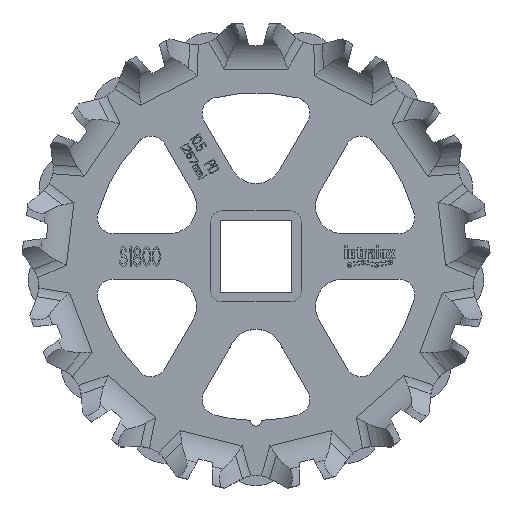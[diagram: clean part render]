
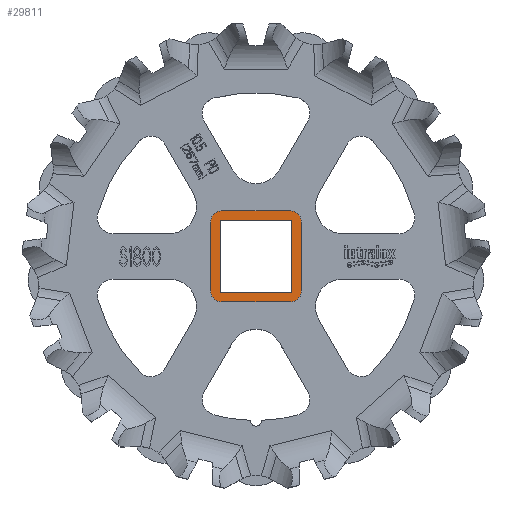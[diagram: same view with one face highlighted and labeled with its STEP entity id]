
A CAD part, top view. The second image highlights one B-rep face of the part: STEP entity #29811.
In plain terms, the highlighted planar face has unit normal (0, 0, 1).
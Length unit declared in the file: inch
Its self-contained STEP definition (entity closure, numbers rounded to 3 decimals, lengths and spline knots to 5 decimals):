
#10348=CARTESIAN_POINT('',(-0.75,0.75,0.75));
#10349=DIRECTION('',(0.,0.,1.));
#10350=DIRECTION('',(0.,1.,0.));
#10351=AXIS2_PLACEMENT_3D('',#10348,#10349,#10350);
#10353=DIRECTION('',(-1.,0.,0.));
#10354=VECTOR('',#10353,1.5);
#10355=CARTESIAN_POINT('',(0.75,1.,0.75));
#10356=LINE('',#10355,#10354);
#10357=CARTESIAN_POINT('',(0.75,0.75,0.75));
#10358=DIRECTION('',(0.,0.,1.));
#10359=DIRECTION('',(1.,0.,0.));
#10360=AXIS2_PLACEMENT_3D('',#10357,#10358,#10359);
#10362=DIRECTION('',(0.,1.,0.));
#10363=VECTOR('',#10362,1.5);
#10364=CARTESIAN_POINT('',(1.,-0.75,0.75));
#10365=LINE('',#10364,#10363);
#10366=CARTESIAN_POINT('',(0.75,-0.75,0.75));
#10367=DIRECTION('',(0.,0.,1.));
#10368=DIRECTION('',(0.,-1.,0.));
#10369=AXIS2_PLACEMENT_3D('',#10366,#10367,#10368);
#10371=DIRECTION('',(1.,0.,0.));
#10372=VECTOR('',#10371,1.5);
#10373=CARTESIAN_POINT('',(-0.75,-1.,0.75));
#10374=LINE('',#10373,#10372);
#10375=CARTESIAN_POINT('',(-0.75,-0.75,0.75));
#10376=DIRECTION('',(0.,0.,1.));
#10377=DIRECTION('',(-1.,0.,0.));
#10378=AXIS2_PLACEMENT_3D('',#10375,#10376,#10377);
#10380=DIRECTION('',(0.,-1.,0.));
#10381=VECTOR('',#10380,1.5);
#10382=CARTESIAN_POINT('',(-1.,0.75,0.75));
#10383=LINE('',#10382,#10381);
#10384=DIRECTION('',(1.,0.,0.));
#10385=VECTOR('',#10384,1.575);
#10386=CARTESIAN_POINT('',(-0.7875,-0.7875,0.75));
#10387=LINE('',#10386,#10385);
#10388=DIRECTION('',(0.,1.,0.));
#10389=VECTOR('',#10388,1.575);
#10390=CARTESIAN_POINT('',(0.7875,-0.7875,0.75));
#10391=LINE('',#10390,#10389);
#10392=DIRECTION('',(-1.,0.,0.));
#10393=VECTOR('',#10392,1.575);
#10394=CARTESIAN_POINT('',(0.7875,0.7875,0.75));
#10395=LINE('',#10394,#10393);
#10396=DIRECTION('',(0.,-1.,0.));
#10397=VECTOR('',#10396,1.575);
#10398=CARTESIAN_POINT('',(-0.7875,0.7875,0.75));
#10399=LINE('',#10398,#10397);
#17139=CARTESIAN_POINT('',(-0.75,1.,0.75));
#17140=CARTESIAN_POINT('',(-1.,0.75,0.75));
#17141=VERTEX_POINT('',#17139);
#17142=VERTEX_POINT('',#17140);
#17143=CARTESIAN_POINT('',(-1.,-0.75,0.75));
#17144=VERTEX_POINT('',#17143);
#17145=CARTESIAN_POINT('',(-0.75,-1.,0.75));
#17146=VERTEX_POINT('',#17145);
#17147=CARTESIAN_POINT('',(0.75,-1.,0.75));
#17148=VERTEX_POINT('',#17147);
#17149=CARTESIAN_POINT('',(1.,-0.75,0.75));
#17150=VERTEX_POINT('',#17149);
#17151=CARTESIAN_POINT('',(1.,0.75,0.75));
#17152=VERTEX_POINT('',#17151);
#17153=CARTESIAN_POINT('',(0.75,1.,0.75));
#17154=VERTEX_POINT('',#17153);
#17195=CARTESIAN_POINT('',(-0.7875,-0.7875,0.75));
#17196=CARTESIAN_POINT('',(0.7875,-0.7875,0.75));
#17197=VERTEX_POINT('',#17195);
#17198=VERTEX_POINT('',#17196);
#17199=CARTESIAN_POINT('',(0.7875,0.7875,0.75));
#17200=VERTEX_POINT('',#17199);
#17201=CARTESIAN_POINT('',(-0.7875,0.7875,0.75));
#17202=VERTEX_POINT('',#17201);
#29786=CARTESIAN_POINT('',(0.,0.,0.75));
#29787=DIRECTION('',(0.,0.,1.));
#29788=DIRECTION('',(1.,0.,0.));
#29789=AXIS2_PLACEMENT_3D('',#29786,#29787,#29788);
#29790=PLANE('',#29789);
#29791=ORIENTED_EDGE('',*,*,#29570,.F.);
#29792=ORIENTED_EDGE('',*,*,#29600,.F.);
#29793=ORIENTED_EDGE('',*,*,#29628,.F.);
#29794=ORIENTED_EDGE('',*,*,#29656,.F.);
#29795=ORIENTED_EDGE('',*,*,#29684,.F.);
#29796=ORIENTED_EDGE('',*,*,#29712,.F.);
#29797=ORIENTED_EDGE('',*,*,#29740,.F.);
#29798=ORIENTED_EDGE('',*,*,#29767,.F.);
#29799=EDGE_LOOP('',(#29791,#29792,#29793,#29794,#29795,#29796,#29797,#29798));
#29800=FACE_OUTER_BOUND('',#29799,.F.);
#29802=ORIENTED_EDGE('',*,*,#29801,.T.);
#29804=ORIENTED_EDGE('',*,*,#29803,.T.);
#29806=ORIENTED_EDGE('',*,*,#29805,.T.);
#29808=ORIENTED_EDGE('',*,*,#29807,.T.);
#29809=EDGE_LOOP('',(#29802,#29804,#29806,#29808));
#29810=FACE_BOUND('',#29809,.F.);
#29811=ADVANCED_FACE('',(#29800,#29810),#29790,.T.);
#10352=CIRCLE('',#10351,0.25);
#10361=CIRCLE('',#10360,0.25);
#10370=CIRCLE('',#10369,0.25);
#10379=CIRCLE('',#10378,0.25);
#29570=EDGE_CURVE('',#17141,#17142,#10352,.T.);
#29600=EDGE_CURVE('',#17154,#17141,#10356,.T.);
#29628=EDGE_CURVE('',#17152,#17154,#10361,.T.);
#29656=EDGE_CURVE('',#17150,#17152,#10365,.T.);
#29684=EDGE_CURVE('',#17148,#17150,#10370,.T.);
#29712=EDGE_CURVE('',#17146,#17148,#10374,.T.);
#29740=EDGE_CURVE('',#17144,#17146,#10379,.T.);
#29767=EDGE_CURVE('',#17142,#17144,#10383,.T.);
#29801=EDGE_CURVE('',#17197,#17198,#10387,.T.);
#29803=EDGE_CURVE('',#17198,#17200,#10391,.T.);
#29805=EDGE_CURVE('',#17200,#17202,#10395,.T.);
#29807=EDGE_CURVE('',#17202,#17197,#10399,.T.);
